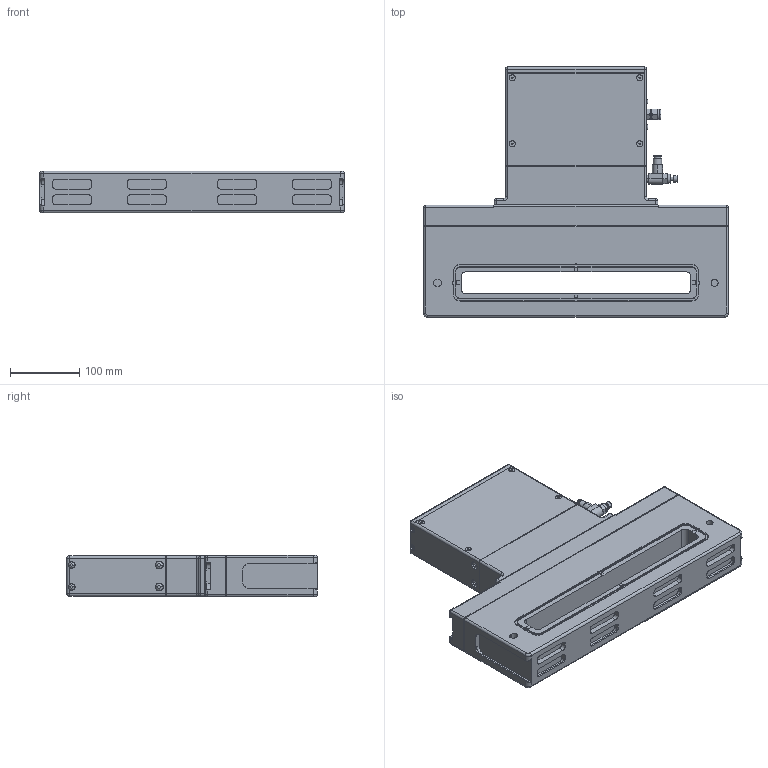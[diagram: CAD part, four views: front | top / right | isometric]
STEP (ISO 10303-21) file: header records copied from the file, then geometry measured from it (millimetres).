
FILE_DESCRIPTION((''),'2;1');
FILE_NAME('28212-0113RXK','2011-03-02T',('jd'),(''),'PRO/ENGINEER BY PARAMETRIC TECHNOLOGY CORPORATION, 2010280','PRO/ENGINEER BY PARAMETRIC TECHNOLOGY CORPORATION, 2010280','');
FILE_SCHEMA(('CONFIG_CONTROL_DESIGN'));
Length unit declared in the file: inch
Products named in the file (1): 28212-0113RXK
Bounding box: 440.03 x 362.2 x 59.99 mm (x, y, z)
Volume: 5843004.5 mm3; surface area: 384708.1 mm2
Topology: 1 solids, 1 shells, 955 faces, 2374 edges, 1504 vertices
Faces by surface type: plane 529, cylinder 254, cone 114, bspline 24, torus 22, sphere 12
Entity records: 30656 total; most frequent: CARTESIAN_POINT 7767, DIRECTION 4786, ORIENTED_EDGE 4740, EDGE_CURVE 2370, AXIS2_PLACEMENT_3D 1705, VERTEX_POINT 1504, VECTOR 1376, LINE 1376
